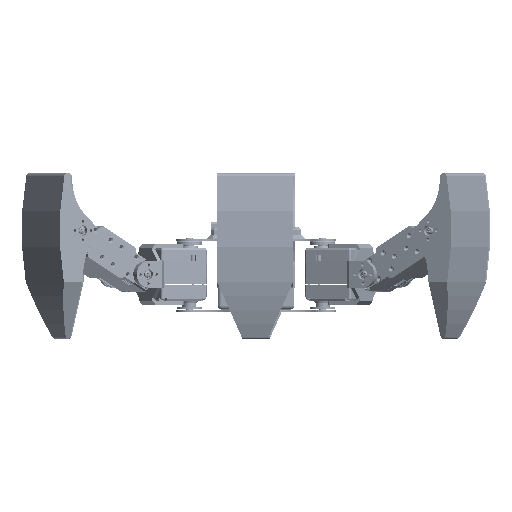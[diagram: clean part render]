
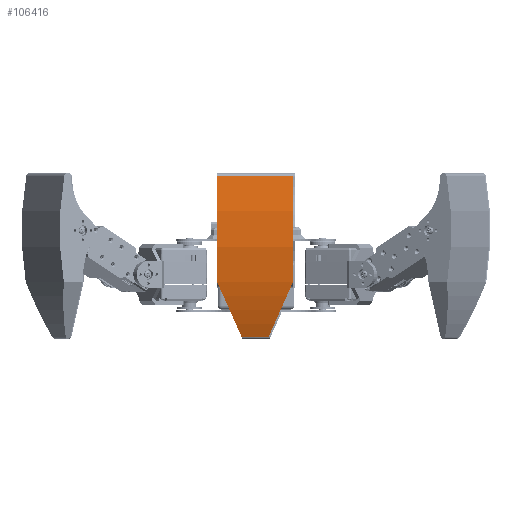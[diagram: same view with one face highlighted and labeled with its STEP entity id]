
A CAD part, left-side view. The second image highlights one B-rep face of the part: STEP entity #106416.
In plain terms, the highlighted cylindrical face has radius 209 mm (diameter 418 mm), a partial arc.
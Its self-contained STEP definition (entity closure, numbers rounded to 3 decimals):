
#4530=ELLIPSE('',#117560,228.779,209.);
#4531=ELLIPSE('',#117563,228.779,209.);
#6226=CYLINDRICAL_SURFACE('',#117559,209.);
#10859=CIRCLE('',#117561,209.);
#10860=CIRCLE('',#117562,209.);
#17186=FACE_OUTER_BOUND('',#23421,.T.);
#23421=EDGE_LOOP('',(#97422,#97423,#97424,#97425,#97426,#97427));
#33440=LINE('',#194540,#43426);
#33442=LINE('',#194550,#43428);
#43426=VECTOR('',#147848,10.);
#43428=VECTOR('',#147858,10.);
#53117=VERTEX_POINT('',#194537);
#53118=VERTEX_POINT('',#194539);
#53120=VERTEX_POINT('',#194545);
#53121=VERTEX_POINT('',#194547);
#53122=VERTEX_POINT('',#194549);
#53123=VERTEX_POINT('',#194551);
#67910=EDGE_CURVE('',#53117,#53118,#33440,.T.);
#67913=EDGE_CURVE('',#53117,#53120,#4530,.T.);
#67914=EDGE_CURVE('',#53120,#53121,#10859,.T.);
#67915=EDGE_CURVE('',#53122,#53121,#33442,.T.);
#67916=EDGE_CURVE('',#53123,#53122,#10860,.T.);
#67917=EDGE_CURVE('',#53123,#53118,#4531,.T.);
#97422=ORIENTED_EDGE('',*,*,#67910,.F.);
#97423=ORIENTED_EDGE('',*,*,#67913,.T.);
#97424=ORIENTED_EDGE('',*,*,#67914,.T.);
#97425=ORIENTED_EDGE('',*,*,#67915,.F.);
#97426=ORIENTED_EDGE('',*,*,#67916,.F.);
#97427=ORIENTED_EDGE('',*,*,#67917,.T.);
#106416=ADVANCED_FACE('',(#17186),#6226,.T.);
#117559=AXIS2_PLACEMENT_3D('',#194544,#147852,#147853);
#117560=AXIS2_PLACEMENT_3D('',#194546,#147854,#147855);
#117561=AXIS2_PLACEMENT_3D('',#194548,#147856,#147857);
#117562=AXIS2_PLACEMENT_3D('',#194552,#147859,#147860);
#117563=AXIS2_PLACEMENT_3D('',#194553,#147861,#147862);
#147848=DIRECTION('',(0.,-1.,0.));
#147852=DIRECTION('center_axis',(0.,-1.,0.));
#147853=DIRECTION('ref_axis',(1.,0.,0.));
#147854=DIRECTION('center_axis',(0.,-0.914,0.407));
#147855=DIRECTION('ref_axis',(0.,0.407,0.914));
#147856=DIRECTION('center_axis',(0.,-1.,0.));
#147857=DIRECTION('ref_axis',(1.,0.,0.));
#147858=DIRECTION('',(0.,1.,0.));
#147859=DIRECTION('center_axis',(0.,-1.,0.));
#147860=DIRECTION('ref_axis',(1.,0.,0.));
#147861=DIRECTION('center_axis',(0.,0.914,0.407));
#147862=DIRECTION('ref_axis',(0.,-0.407,0.914));
#194537=CARTESIAN_POINT('',(13.845,10.814,-80.571));
#194539=CARTESIAN_POINT('',(13.845,-9.214,-80.571));
#194540=CARTESIAN_POINT('',(13.845,-24.9,-80.571));
#194544=CARTESIAN_POINT('Origin',(-179.,-24.9,0.));
#194545=CARTESIAN_POINT('',(26.404,29.5,-38.601));
#194546=CARTESIAN_POINT('Origin',(-179.,46.686,0.));
#194547=CARTESIAN_POINT('',(25.942,29.5,40.986));
#194548=CARTESIAN_POINT('Origin',(-179.,29.5,0.));
#194549=CARTESIAN_POINT('',(25.942,-27.9,40.986));
#194550=CARTESIAN_POINT('',(25.942,-24.9,40.986));
#194551=CARTESIAN_POINT('',(26.404,-27.9,-38.601));
#194552=CARTESIAN_POINT('Origin',(-179.,-27.9,0.));
#194553=CARTESIAN_POINT('Origin',(-179.,-45.086,0.));
